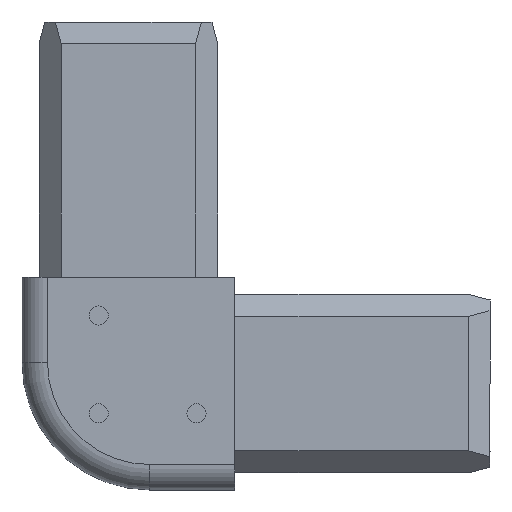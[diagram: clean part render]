
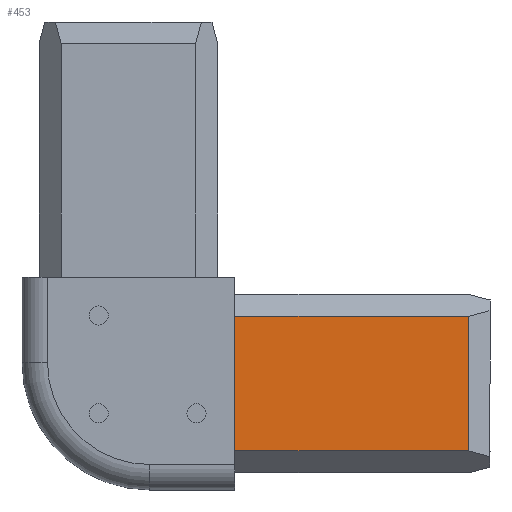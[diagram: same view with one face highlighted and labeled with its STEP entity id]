
A CAD part, left-side view. The second image highlights one B-rep face of the part: STEP entity #453.
In plain terms, the highlighted planar face has unit normal (-1, 0, 0).
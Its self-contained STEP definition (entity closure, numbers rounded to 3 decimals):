
#17 = CARTESIAN_POINT ( 'NONE',  ( -10.5, -40., 7.9 ) ) ;
#82 = VECTOR ( 'NONE', #1133, 1000. ) ;
#183 = CARTESIAN_POINT ( 'NONE',  ( -10.5, -12.5, 7.9 ) ) ;
#201 = CARTESIAN_POINT ( 'NONE',  ( -10.5, -40., -7.9 ) ) ;
#241 = DIRECTION ( 'NONE',  ( -1., 0., 0. ) ) ;
#287 = EDGE_CURVE ( 'NONE', #1016, #1383, #454, .T. ) ;
#299 = CARTESIAN_POINT ( 'NONE',  ( -10.5, -12.5, 7.9 ) ) ;
#300 = EDGE_CURVE ( 'NONE', #342, #1016, #1023, .T. ) ;
#326 = CARTESIAN_POINT ( 'NONE',  ( -10.5, -12.5, -7.9 ) ) ;
#340 = FACE_OUTER_BOUND ( 'NONE', #1423, .T. ) ;
#342 = VERTEX_POINT ( 'NONE', #183 ) ;
#434 = AXIS2_PLACEMENT_3D ( 'NONE', #1311, #241, #717 ) ;
#453 = ADVANCED_FACE ( 'NONE', ( #340 ), #1318, .T. ) ;
#454 = LINE ( 'NONE', #326, #1224 ) ;
#717 = DIRECTION ( 'NONE',  ( 0., -1., 0. ) ) ;
#859 = EDGE_CURVE ( 'NONE', #1383, #1261, #1048, .T. ) ;
#864 = ORIENTED_EDGE ( 'NONE', *, *, #859, .T. ) ;
#926 = DIRECTION ( 'NONE',  ( 0., -1., 0. ) ) ;
#931 = ORIENTED_EDGE ( 'NONE', *, *, #1053, .T. ) ;
#1016 = VERTEX_POINT ( 'NONE', #1488 ) ;
#1023 = LINE ( 'NONE', #1396, #1531 ) ;
#1048 = LINE ( 'NONE', #1526, #1056 ) ;
#1053 = EDGE_CURVE ( 'NONE', #1261, #342, #1374, .T. ) ;
#1056 = VECTOR ( 'NONE', #1411, 1000. ) ;
#1133 = DIRECTION ( 'NONE',  ( 0., 1., 0. ) ) ;
#1224 = VECTOR ( 'NONE', #926, 1000. ) ;
#1261 = VERTEX_POINT ( 'NONE', #17 ) ;
#1287 = ORIENTED_EDGE ( 'NONE', *, *, #300, .T. ) ;
#1290 = ORIENTED_EDGE ( 'NONE', *, *, #287, .T. ) ;
#1311 = CARTESIAN_POINT ( 'NONE',  ( -10.5, -12.5, 10.5 ) ) ;
#1318 = PLANE ( 'NONE',  #434 ) ;
#1374 = LINE ( 'NONE', #299, #82 ) ;
#1383 = VERTEX_POINT ( 'NONE', #201 ) ;
#1396 = CARTESIAN_POINT ( 'NONE',  ( -10.5, -12.5, 10.5 ) ) ;
#1411 = DIRECTION ( 'NONE',  ( 0., 0., 1. ) ) ;
#1423 = EDGE_LOOP ( 'NONE', ( #1290, #864, #931, #1287 ) ) ;
#1484 = DIRECTION ( 'NONE',  ( 0., 0., -1. ) ) ;
#1488 = CARTESIAN_POINT ( 'NONE',  ( -10.5, -12.5, -7.9 ) ) ;
#1526 = CARTESIAN_POINT ( 'NONE',  ( -10.5, -40., 7.9 ) ) ;
#1531 = VECTOR ( 'NONE', #1484, 1000. ) ;
